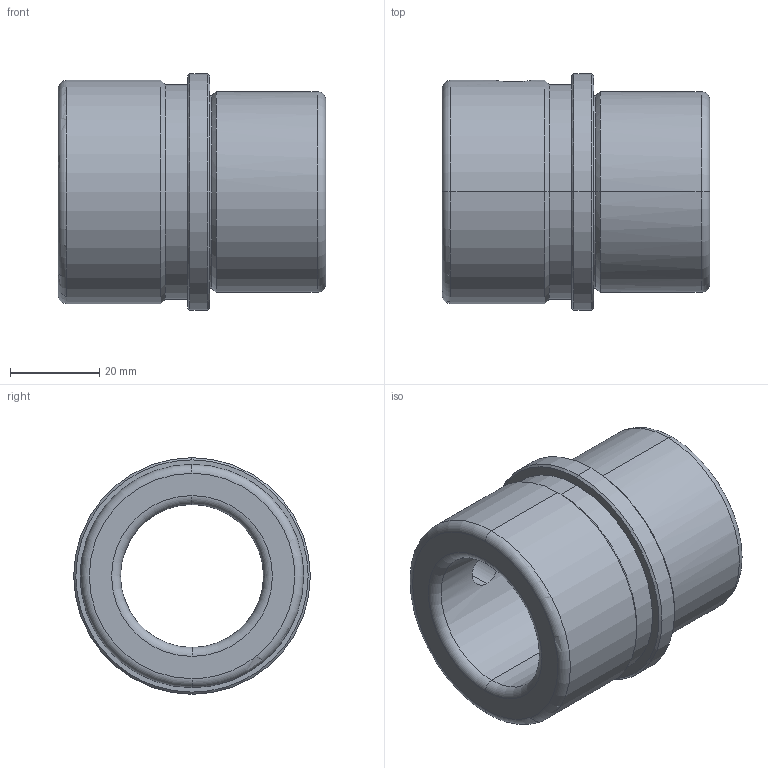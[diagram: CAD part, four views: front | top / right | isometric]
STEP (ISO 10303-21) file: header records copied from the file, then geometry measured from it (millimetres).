
FILE_DESCRIPTION(('CATIA V5 STEP Exchange'),'2;1');
FILE_NAME('C:\Users\Utente\Desktop\IO LAVORO\3D X SITO CF\X SITO\CF 641\CF 641 32 x 60.stp','2020-12-26T14:45:24+00:00',('none'),('none'),'CATIA Version 5 Release 20 GA (IN-10)','CATIA V5 STEP AP203','none');
FILE_SCHEMA(('CONFIG_CONTROL_DESIGN'));
Length unit declared in the file: millimetre
Products named in the file (1): CF 641 32 x 60
Bounding box: 60 x 53 x 53 mm (x, y, z)
Volume: 58855.3 mm3; surface area: 18069.8 mm2
Topology: 1 solids, 1 shells, 37 faces, 126 edges, 94 vertices
Faces by surface type: cylinder 14, cone 10, torus 8, plane 5
Entity records: 1648 total; most frequent: CARTESIAN_POINT 520, ORIENTED_EDGE 252, DIRECTION 178, EDGE_CURVE 126, AXIS2_PLACEMENT_3D 118, VERTEX_POINT 94, CIRCLE 80, EDGE_LOOP 44
